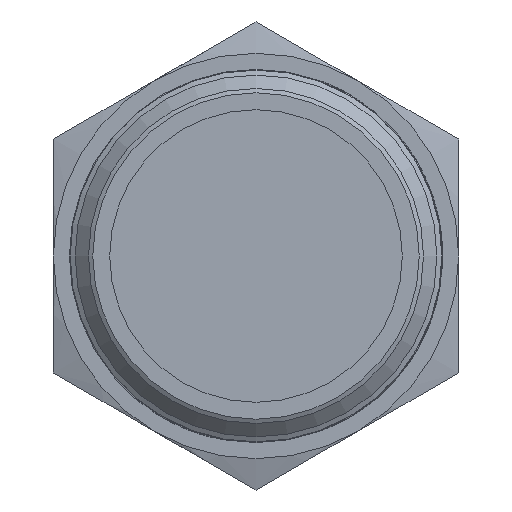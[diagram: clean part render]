
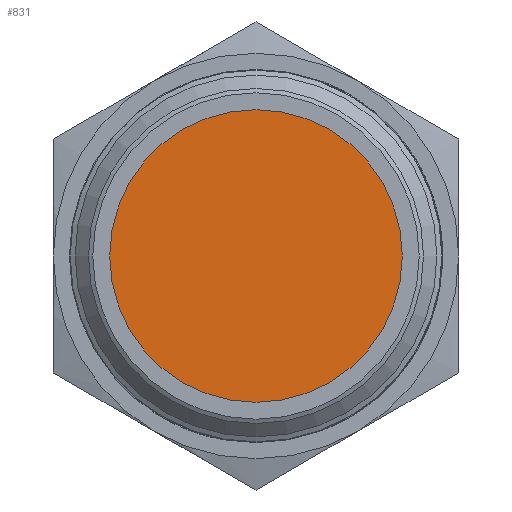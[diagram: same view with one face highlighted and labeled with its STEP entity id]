
A CAD part, left-side view. The second image highlights one B-rep face of the part: STEP entity #831.
In plain terms, the highlighted planar face has unit normal (-1, 0, 0).
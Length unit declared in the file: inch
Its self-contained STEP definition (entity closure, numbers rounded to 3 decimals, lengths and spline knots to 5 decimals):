
#831 = ADVANCED_FACE( '', ( #1773 ), #1774, .T. );
#1773 = FACE_OUTER_BOUND( '', #3699, .T. );
#1774 = PLANE( '', #3700 );
#3699 = EDGE_LOOP( '', ( #5993 ) );
#3700 = AXIS2_PLACEMENT_3D( '', #5994, #5995, #5996 );
#5993 = ORIENTED_EDGE( '', *, *, #7395, .T. );
#5994 = CARTESIAN_POINT( '', ( 0.25, 0., 0.406 ) );
#5995 = DIRECTION( '', ( -1., 0., 0. ) );
#5996 = DIRECTION( '', ( 0., 0., 1. ) );
#7395 = EDGE_CURVE( '', #8815, #8815, #8816, .T. );
#8815 = VERTEX_POINT( '', #11750 );
#8816 = CIRCLE( '', #11751, 0.406 );
#11750 = CARTESIAN_POINT( '', ( 0.25, 0., 0.406 ) );
#11751 = AXIS2_PLACEMENT_3D( '', #12379, #12380, #12381 );
#12379 = CARTESIAN_POINT( '', ( 0.25, 0., 0. ) );
#12380 = DIRECTION( '', ( -1., 0., 0. ) );
#12381 = DIRECTION( '', ( 0., 0., 1. ) );
